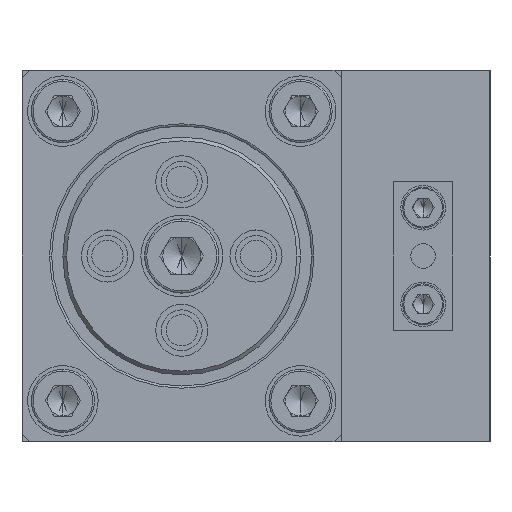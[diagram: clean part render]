
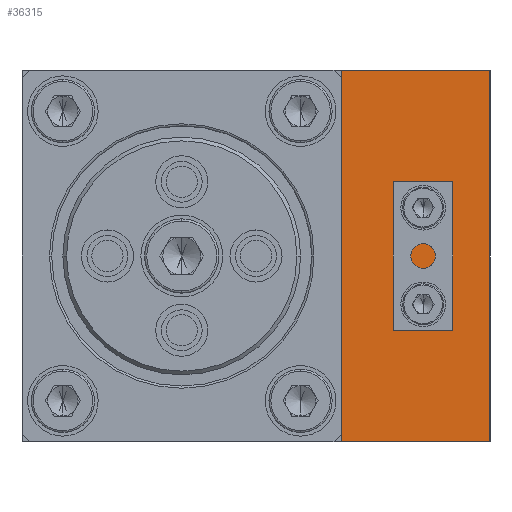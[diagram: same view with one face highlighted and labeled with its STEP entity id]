
A CAD part, left-side view. The second image highlights one B-rep face of the part: STEP entity #36315.
In plain terms, the highlighted planar face has unit normal (-1, 0, 0).
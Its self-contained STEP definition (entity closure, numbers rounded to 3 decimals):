
#108 = LINE ( 'NONE', #3195, #130 ) ;
#130 = VECTOR ( 'NONE', #3196, 1000. ) ;
#190 = LINE ( 'NONE', #3280, #191 ) ;
#191 = VECTOR ( 'NONE', #3281, 1000. ) ;
#3195 = CARTESIAN_POINT ( 'NONE',  ( -40., 20., 25. ) ) ;
#3196 = DIRECTION ( 'NONE',  ( 0., -1., 0. ) ) ;
#3280 = CARTESIAN_POINT ( 'NONE',  ( -40., 20., -25. ) ) ;
#3281 = DIRECTION ( 'NONE',  ( 0., -1., 0. ) ) ;
#4566 = EDGE_LOOP ( 'NONE', ( #22441, #22442 ) ) ;
#8053 = EDGE_LOOP ( 'NONE', ( #22439, #22440 ) ) ;
#22439 = ORIENTED_EDGE ( 'NONE', *, *, #29996, .F. ) ;
#22440 = ORIENTED_EDGE ( 'NONE', *, *, #48879, .F. ) ;
#22441 = ORIENTED_EDGE ( 'NONE', *, *, #29997, .F. ) ;
#22442 = ORIENTED_EDGE ( 'NONE', *, *, #48872, .F. ) ;
#22443 = ORIENTED_EDGE ( 'NONE', *, *, #29986, .T. ) ;
#22444 = ORIENTED_EDGE ( 'NONE', *, *, #66411, .F. ) ;
#22445 = ORIENTED_EDGE ( 'NONE', *, *, #29994, .F. ) ;
#22446 = ORIENTED_EDGE ( 'NONE', *, *, #66498, .T. ) ;
#29597 = AXIS2_PLACEMENT_3D ( 'NONE', #50245, #50271, #50273 ) ;
#29599 = AXIS2_PLACEMENT_3D ( 'NONE', #50275, #50298, #50300 ) ;
#29986 = EDGE_CURVE ( 'NONE', #49715, #49680, #46704, .T. ) ;
#29994 = EDGE_CURVE ( 'NONE', #49717, #49678, #46735, .T. ) ;
#29996 = EDGE_CURVE ( 'NONE', #49512, #49510, #46748, .T. ) ;
#29997 = EDGE_CURVE ( 'NONE', #49522, #49520, #46753, .T. ) ;
#34487 = CIRCLE ( 'NONE', #29597, 1.25 ) ;
#34501 = CIRCLE ( 'NONE', #29599, 1.25 ) ;
#36315 = ADVANCED_FACE ( 'NONE', ( #60363, #60359, #60365 ), #61478, .T. ) ;
#41791 = AXIS2_PLACEMENT_3D ( 'NONE', #53119, #53122, #53124 ) ;
#41796 = AXIS2_PLACEMENT_3D ( 'NONE', #53112, #53115, #53117 ) ;
#46684 = VECTOR ( 'NONE', #53065, 1000. ) ;
#46704 = LINE ( 'NONE', #53052, #46684 ) ;
#46717 = VECTOR ( 'NONE', #53106, 1000. ) ;
#46735 = LINE ( 'NONE', #53093, #46717 ) ;
#46748 = CIRCLE ( 'NONE', #41796, 1.25 ) ;
#46753 = CIRCLE ( 'NONE', #41791, 1.25 ) ;
#48872 = EDGE_CURVE ( 'NONE', #49520, #49522, #34487, .T. ) ;
#48879 = EDGE_CURVE ( 'NONE', #49510, #49512, #34501, .T. ) ;
#49510 = VERTEX_POINT ( 'NONE', #50570 ) ;
#49512 = VERTEX_POINT ( 'NONE', #50572 ) ;
#49520 = VERTEX_POINT ( 'NONE', #50580 ) ;
#49522 = VERTEX_POINT ( 'NONE', #50583 ) ;
#49678 = VERTEX_POINT ( 'NONE', #50732 ) ;
#49680 = VERTEX_POINT ( 'NONE', #50734 ) ;
#49715 = VERTEX_POINT ( 'NONE', #50767 ) ;
#49717 = VERTEX_POINT ( 'NONE', #50769 ) ;
#50245 = CARTESIAN_POINT ( 'NONE',  ( -40., 9., 6.5 ) ) ;
#50271 = DIRECTION ( 'NONE',  ( -1., 0., 0. ) ) ;
#50273 = DIRECTION ( 'NONE',  ( 0., 0., 1. ) ) ;
#50275 = CARTESIAN_POINT ( 'NONE',  ( -40., 9., -6.5 ) ) ;
#50298 = DIRECTION ( 'NONE',  ( -1., 0., 0. ) ) ;
#50300 = DIRECTION ( 'NONE',  ( 0., 0., 1. ) ) ;
#50570 = CARTESIAN_POINT ( 'NONE',  ( -40., 9., -7.75 ) ) ;
#50572 = CARTESIAN_POINT ( 'NONE',  ( -40., 9., -5.25 ) ) ;
#50580 = CARTESIAN_POINT ( 'NONE',  ( -40., 9., 5.25 ) ) ;
#50583 = CARTESIAN_POINT ( 'NONE',  ( -40., 9., 7.75 ) ) ;
#50732 = CARTESIAN_POINT ( 'NONE',  ( -40., 20., 25. ) ) ;
#50734 = CARTESIAN_POINT ( 'NONE',  ( -40., 0., 25. ) ) ;
#50767 = CARTESIAN_POINT ( 'NONE',  ( -40., 0., -25. ) ) ;
#50769 = CARTESIAN_POINT ( 'NONE',  ( -40., 20., -25. ) ) ;
#53052 = CARTESIAN_POINT ( 'NONE',  ( -40., 0., -25. ) ) ;
#53065 = DIRECTION ( 'NONE',  ( 0., 0., 1. ) ) ;
#53093 = CARTESIAN_POINT ( 'NONE',  ( -40., 20., -25. ) ) ;
#53106 = DIRECTION ( 'NONE',  ( 0., 0., 1. ) ) ;
#53112 = CARTESIAN_POINT ( 'NONE',  ( -40., 9., -6.5 ) ) ;
#53115 = DIRECTION ( 'NONE',  ( -1., 0., 0. ) ) ;
#53117 = DIRECTION ( 'NONE',  ( 0., 0., 1. ) ) ;
#53119 = CARTESIAN_POINT ( 'NONE',  ( -40., 9., 6.5 ) ) ;
#53122 = DIRECTION ( 'NONE',  ( -1., 0., 0. ) ) ;
#53124 = DIRECTION ( 'NONE',  ( 0., 0., 1. ) ) ;
#59424 = AXIS2_PLACEMENT_3D ( 'NONE', #61479, #61480, #61481 ) ;
#60359 = FACE_BOUND ( 'NONE', #4566, .T. ) ;
#60363 = FACE_BOUND ( 'NONE', #8053, .T. ) ;
#60365 = FACE_OUTER_BOUND ( 'NONE', #79380, .T. ) ;
#61478 = PLANE ( 'NONE',  #59424 ) ;
#61479 = CARTESIAN_POINT ( 'NONE',  ( -40., 20., -25. ) ) ;
#61480 = DIRECTION ( 'NONE',  ( -1., 0., 0. ) ) ;
#61481 = DIRECTION ( 'NONE',  ( 0., 0., 1. ) ) ;
#66411 = EDGE_CURVE ( 'NONE', #49678, #49680, #108, .T. ) ;
#66498 = EDGE_CURVE ( 'NONE', #49717, #49715, #190, .T. ) ;
#79380 = EDGE_LOOP ( 'NONE', ( #22443, #22444, #22445, #22446 ) ) ;
